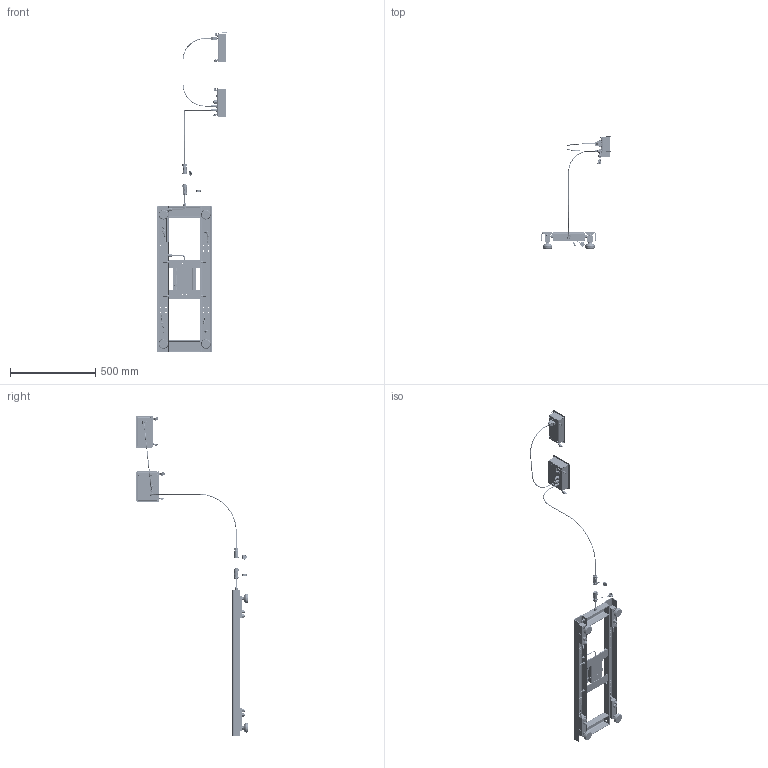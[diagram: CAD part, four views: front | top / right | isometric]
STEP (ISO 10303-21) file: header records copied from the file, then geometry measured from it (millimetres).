
FILE_DESCRIPTION (( 'STEP AP214' ), '1' );
FILE_NAME ('Balança Para Check-in 860 x 320 Cassioli com 2 Indicadores.STEP', '2023-11-21T20:32:01', ( '' ), ( '' ), 'SwSTEP 2.0', 'SolidWorks 2021', '' );
FILE_SCHEMA (( 'AUTOMOTIVE_DESIGN' ));
Length unit declared in the file: millimetre
Products named in the file (98): Espaçador 7mm; Mini Led verde; PC 03 - Chapa 3-16 pol. x 2 pol. x 40; Liga Desliga; Borracha 1 x 156 x 106; Display DP 6 Dígitos VIRTUAL 06-06-18 com Paraf; PC 00 - Chapa 3-16 pol. x 180 x 148; Mont Lateral 860; Teclado Ulma Mini; Porca para Mike; Arame 1; PC 00 - Chapa 1-8 pol. x 2 Pol. 180; BOTÃO; Mike fêmea montado; Caixa; Placa Cx. SJB 4; Mike Femea 5V; hex thin nut chamfered gradeab_din_Hexagon Thin Nut ISO 4035 - M3 - N; Pe Articulado Menor; PC 01 - Chapa 3-16 pol. x 860 x 148; Mont. Arame 1+Arame 1; Paraf. Allen cabeça cilindrica métrico_M12 X 60; CX. Junção SJB com Placa; Mont. Arame 1+Arame 1 remoto; Mont. Mini DGN Final; Display DP 6 Dígitos VIRTUAL 06-06-18; Placa SJB completa; Mont Arames e Lacre; al蓷2; slotted cheese head screw_din_DIN EN ISO 1207 - M3 x 16 - 16N; Pe蓷 01 - Chapa 1 x 277 x 187; Arruela Lisa métrica_M3; Adesivo Digi-tron A; Mont. Display Remoto Mini ULMA; Mont. Receptor Fusível; Tubo; PG-9 Pe蓷 1; Arame de Lacre Simples Pequeno; EL0D JR Sem parafusos 2018; Mont. Célula ICS com Parafusos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
Assembly tree (209 placements, depth 6):
  Balança Para Check-in 860 x 320 Cassioli com 2 Indicadores
    Estrutura Metálica
      Mont Lateral 860  x2
        PC 01 - Chapa 3-16 pol. x 860 x 148
        PC 03 - Chapa 3-16 pol. x 2 pol. x 40
        PC 04 - Chapa 3-8 pol. x 2 pol. x 40
        Calço 50 x 50
      PC 00 - Chapa 3-16 pol. x 180 x 148
      PC 02 - Chapa 3-16 pol. x 180 x 148
      PC 00 - Chapa 1-8 pol. x 2 Pol. 180  x2
      Tubo
    Mont. Célula ICS com Parafusos  x4
      Célula de Carga ICS 2t
      Paraf. Allen cabeça cilindrica métrico_M12 X 60
      Arruela Lisa métricas_M12
      Porca metricas_M12
      Pe Articulado Menor
    CX. Junção SJB com Placa
      Caixa de Junção SJB 4 - Corpo Principal
      Placa SJB completa
        Placa Cx. SJB 4
        Componente Placa Cx. SJB 4  x5
        Trimpot  x4
      cross recessed thread forming screws gb_GB_CROSS_SCREWS_TYPE138 M4X10X8.6-N  x8
      Caixa de Junção SJB 4 - Tampa
      PG-7 Pe蓷 1  x5
      Adesivo Digi-tron A
    PG-7 Pe蓷 1  x7
    Cabo  x6
    Conector Fêmea SP21
    Conector Macho SP21
    Cabo 02
    Mont. Mini DGN Final
      Mont. Caixa com Componentes
        Caixa Externa Especial
          Chapa 1 x 217 x 267
          Chapa Frontal Adicional
        Display DP 6 Dígitos VIRTUAL 06-06-18 com Paraf
          Display DP 6 Dígitos VIRTUAL 06-06-18
            Placa do Display DP 6 Dígitos
            Dígito 19mm  x6
            Terminal 16 vias para cabo Flat
            Mini Led verde  x3
          Espaçador 7mm  x3
          slotted countersunk flat head screw_din_DIN EN ISO 2009 - M3 x 16 - 16N  x3
          Arruela Lisa métrica_M3  x3
          hex thin nut chamfered gradeab_din_Hexagon Thin Nut ISO 4035 - M3 - N  x3
        EL0D JR Sem parafusos 2018 com Paraf
          EL0D JR Sem parafusos 2018
          slotted countersunk flat head screw_din_DIN EN ISO 2009 - M3 x 16 - 16N  x3
          hex thin nut chamfered gradeab_din_Hexagon Thin Nut ISO 4035 - M3 - N  x3
          Espaçador 10mm  x3
          Arruela Lisa métrica_M3  x3
      Tampa Traseria Mini DGN
        Chapa 1 x 156 x 106
        Mike Femea 8V
        Porca para Mike  x2
        Mike Femea 5V
        PG-9 Pe蓷 1
        PG-9 Pe蓷 2
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Bounding box: 405.9 x 663.59 x 1885.74 mm (x, y, z)
Volume: 3105213.3 mm3; surface area: 1734341.6 mm2
Topology: 786 solids, 794 shells, 15278 faces, 36482 edges, 23258 vertices
Faces by surface type: plane 9551, cylinder 3598, cone 1093, torus 577, bspline 317, sphere 142
Entity records: 375550 total; most frequent: CARTESIAN_POINT 69473, DIRECTION 47324, ORIENTED_EDGE 45868, EDGE_CURVE 22934, LINE 16232, VECTOR 16232, AXIS2_PLACEMENT_3D 15546, VERTEX_POINT 14755
